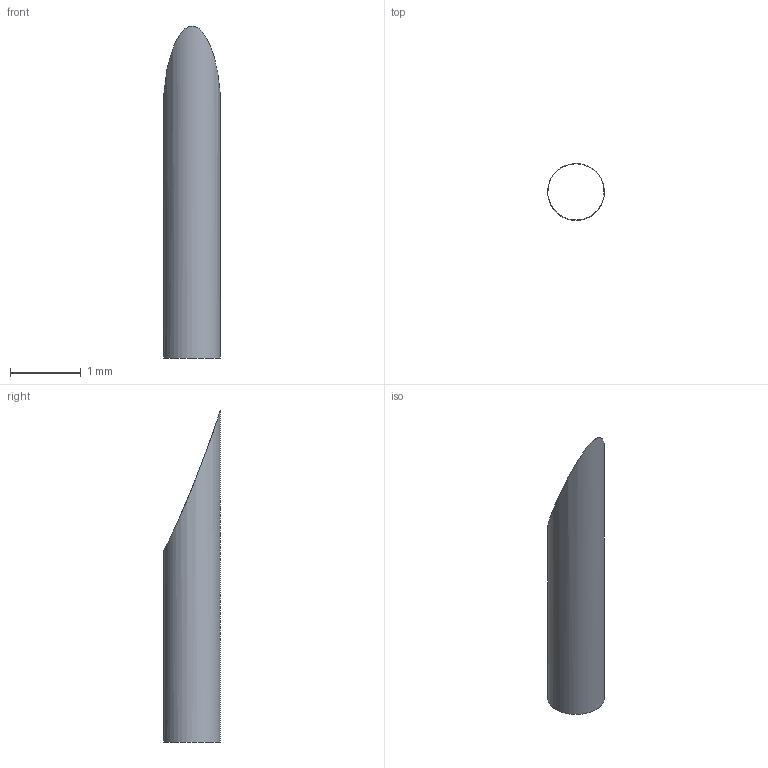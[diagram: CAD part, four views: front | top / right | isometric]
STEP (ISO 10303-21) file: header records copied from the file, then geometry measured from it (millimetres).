
FILE_DESCRIPTION(('BRL-CAD AP214 collapsed wavy periodic band fixture'),'2;1');
FILE_NAME('ap214_collapsed_wavy_periodic_band.stp','2026-07-22T00:00:00',('BRL-CAD'),('BRL-CAD'),'','','');
FILE_SCHEMA(('AUTOMOTIVE_DESIGN { 1 0 10303 214 3 1 1 1 }'));
Length unit declared in the file: millimetre
Products named in the file (1): collapsed_wavy_periodic_band
Bounding box: 0.8 x 0.8 x 4.68 mm (x, y, z)
Surface area: 9.1 mm2 (no closed solid volume)
Topology: 0 solids, 1 shells, 1 faces, 4 edges, 3 vertices
Faces by surface type: cylinder 1
Full cylindrical faces by diameter (mm): 0.8 x1
Entity records: 71 total; most frequent: CARTESIAN_POINT 40, DIRECTION 2, AXIS2_PLACEMENT_3D 2, VERTEX_POINT 2, EDGE_CURVE 2, ORIENTED_EDGE 2, EDGE_LOOP 2, CYLINDRICAL_SURFACE 1
